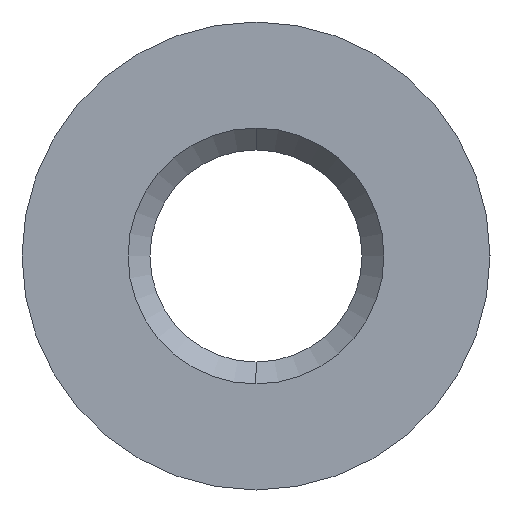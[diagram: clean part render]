
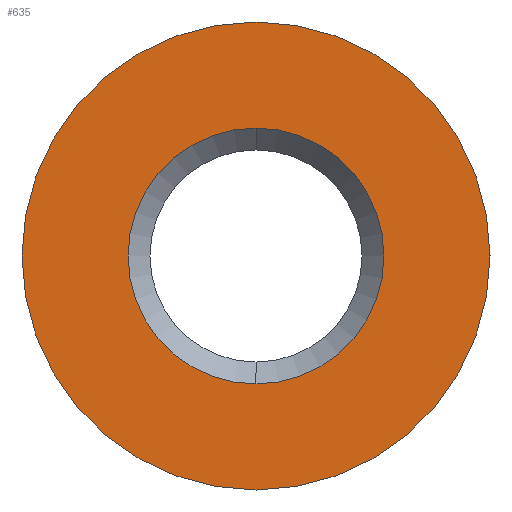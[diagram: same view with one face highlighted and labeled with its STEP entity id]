
A CAD part, left-side view. The second image highlights one B-rep face of the part: STEP entity #635.
In plain terms, the highlighted planar face has unit normal (-1, 0, 0).
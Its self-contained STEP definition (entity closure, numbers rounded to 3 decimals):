
#16 = DIRECTION ( 'NONE',  ( 1., 0., 0. ) ) ;
#41 = FACE_OUTER_BOUND ( 'NONE', #264, .T. ) ;
#53 = VERTEX_POINT ( 'NONE', #669 ) ;
#109 = EDGE_CURVE ( 'NONE', #837, #735, #414, .T. ) ;
#115 = AXIS2_PLACEMENT_3D ( 'NONE', #318, #254, #194 ) ;
#144 = AXIS2_PLACEMENT_3D ( 'NONE', #559, #16, #769 ) ;
#191 = DIRECTION ( 'NONE',  ( 0., 0., 1. ) ) ;
#194 = DIRECTION ( 'NONE',  ( 0., 0., 1. ) ) ;
#247 = EDGE_CURVE ( 'NONE', #735, #837, #670, .T. ) ;
#254 = DIRECTION ( 'NONE',  ( 1., 0., 0. ) ) ;
#260 = PLANE ( 'NONE',  #652 ) ;
#264 = EDGE_LOOP ( 'NONE', ( #787, #347 ) ) ;
#280 = ORIENTED_EDGE ( 'NONE', *, *, #677, .T. ) ;
#318 = CARTESIAN_POINT ( 'NONE',  ( -7.86, 0., 0. ) ) ;
#327 = DIRECTION ( 'NONE',  ( 1., 0., 0. ) ) ;
#347 = ORIENTED_EDGE ( 'NONE', *, *, #109, .F. ) ;
#385 = DIRECTION ( 'NONE',  ( -1., 0., 0. ) ) ;
#400 = AXIS2_PLACEMENT_3D ( 'NONE', #793, #327, #517 ) ;
#414 = CIRCLE ( 'NONE', #144, 3.2 ) ;
#477 = CIRCLE ( 'NONE', #878, 1.75 ) ;
#486 = CARTESIAN_POINT ( 'NONE',  ( -7.86, 0., -1.75 ) ) ;
#517 = DIRECTION ( 'NONE',  ( 0., 0., -1. ) ) ;
#535 = CARTESIAN_POINT ( 'NONE',  ( -7.86, 0., 0. ) ) ;
#559 = CARTESIAN_POINT ( 'NONE',  ( -7.86, 0., 0. ) ) ;
#586 = CARTESIAN_POINT ( 'NONE',  ( -7.86, 3.2, 0. ) ) ;
#593 = CARTESIAN_POINT ( 'NONE',  ( -7.86, 0., -3.2 ) ) ;
#623 = EDGE_CURVE ( 'NONE', #830, #53, #865, .T. ) ;
#635 = ADVANCED_FACE ( 'NONE', ( #740, #41 ), #260, .T. ) ;
#652 = AXIS2_PLACEMENT_3D ( 'NONE', #586, #385, #191 ) ;
#669 = CARTESIAN_POINT ( 'NONE',  ( -7.86, 0., 1.75 ) ) ;
#670 = CIRCLE ( 'NONE', #400, 3.2 ) ;
#677 = EDGE_CURVE ( 'NONE', #53, #830, #477, .T. ) ;
#693 = CARTESIAN_POINT ( 'NONE',  ( -7.86, 0., 3.2 ) ) ;
#715 = ORIENTED_EDGE ( 'NONE', *, *, #623, .T. ) ;
#727 = DIRECTION ( 'NONE',  ( 0., 0., 1. ) ) ;
#735 = VERTEX_POINT ( 'NONE', #593 ) ;
#740 = FACE_BOUND ( 'NONE', #895, .T. ) ;
#769 = DIRECTION ( 'NONE',  ( 0., 0., -1. ) ) ;
#787 = ORIENTED_EDGE ( 'NONE', *, *, #247, .F. ) ;
#793 = CARTESIAN_POINT ( 'NONE',  ( -7.86, 0., 0. ) ) ;
#830 = VERTEX_POINT ( 'NONE', #486 ) ;
#837 = VERTEX_POINT ( 'NONE', #693 ) ;
#865 = CIRCLE ( 'NONE', #115, 1.75 ) ;
#868 = DIRECTION ( 'NONE',  ( 1., 0., 0. ) ) ;
#878 = AXIS2_PLACEMENT_3D ( 'NONE', #535, #868, #727 ) ;
#895 = EDGE_LOOP ( 'NONE', ( #280, #715 ) ) ;
